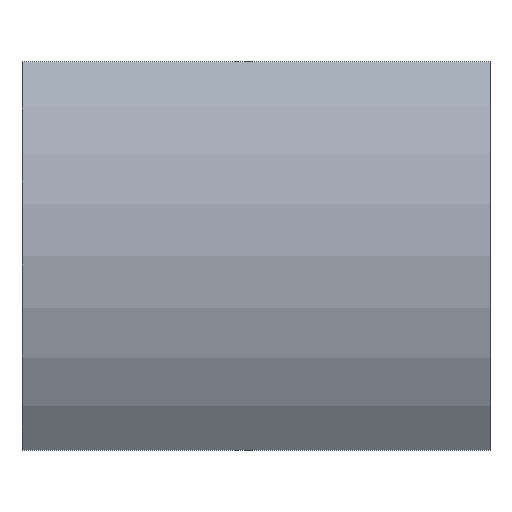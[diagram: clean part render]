
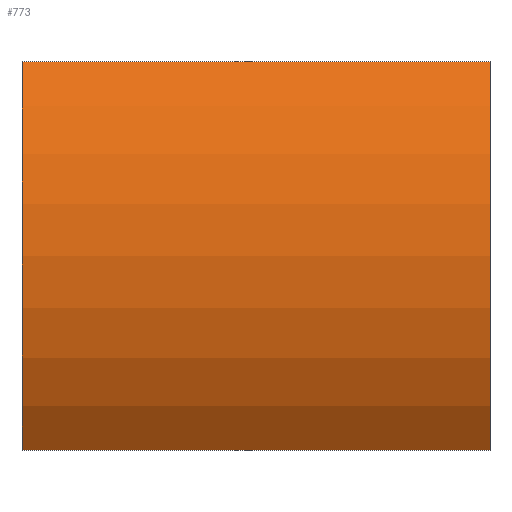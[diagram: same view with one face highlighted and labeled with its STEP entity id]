
A CAD part, top view. The second image highlights one B-rep face of the part: STEP entity #773.
In plain terms, the highlighted cylindrical face has radius 18.8 mm (diameter 37.6 mm), a partial arc.
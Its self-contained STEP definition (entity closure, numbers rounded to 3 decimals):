
#24 = VERTEX_POINT('',#25);
#25 = CARTESIAN_POINT('',(160.7,-11.115,15.162));
#32 = PLANE('',#33);
#33 = AXIS2_PLACEMENT_3D('',#34,#35,#36);
#34 = CARTESIAN_POINT('',(160.7,-11.115,14.2));
#35 = DIRECTION('',(1.,0.,-0.));
#36 = DIRECTION('',(0.,0.,1.));
#44 = PLANE('',#45);
#45 = AXIS2_PLACEMENT_3D('',#46,#47,#48);
#46 = CARTESIAN_POINT('',(160.7,-11.115,14.2));
#47 = DIRECTION('',(-0.,1.,0.));
#48 = DIRECTION('',(0.,0.,1.));
#85 = VERTEX_POINT('',#86);
#86 = CARTESIAN_POINT('',(160.7,11.115,15.162));
#100 = PLANE('',#101);
#101 = AXIS2_PLACEMENT_3D('',#102,#103,#104);
#102 = CARTESIAN_POINT('',(160.7,11.115,14.2));
#103 = DIRECTION('',(-0.,1.,0.));
#104 = DIRECTION('',(0.,0.,1.));
#112 = EDGE_CURVE('',#85,#24,#113,.T.);
#113 = SURFACE_CURVE('',#114,(#119,#126),.PCURVE_S1.);
#114 = CIRCLE('',#115,18.8);
#115 = AXIS2_PLACEMENT_3D('',#116,#117,#118);
#116 = CARTESIAN_POINT('',(160.7,0.,0.));
#117 = DIRECTION('',(1.,0.,0.));
#118 = DIRECTION('',(-0.,1.,0.));
#119 = PCURVE('',#32,#120);
#120 = DEFINITIONAL_REPRESENTATION('',(#121),#125);
#121 = CIRCLE('',#122,18.8);
#122 = AXIS2_PLACEMENT_2D('',#123,#124);
#123 = CARTESIAN_POINT('',(-14.2,-11.115));
#124 = DIRECTION('',(0.,-1.));
#125 = ( GEOMETRIC_REPRESENTATION_CONTEXT(2) 
PARAMETRIC_REPRESENTATION_CONTEXT() REPRESENTATION_CONTEXT('2D SPACE',''
  ) );
#126 = PCURVE('',#127,#132);
#127 = CYLINDRICAL_SURFACE('',#128,18.8);
#128 = AXIS2_PLACEMENT_3D('',#129,#130,#131);
#129 = CARTESIAN_POINT('',(42.,0.,0.));
#130 = DIRECTION('',(1.,0.,0.));
#131 = DIRECTION('',(-0.,1.,0.));
#132 = DEFINITIONAL_REPRESENTATION('',(#133),#137);
#133 = LINE('',#134,#135);
#134 = CARTESIAN_POINT('',(0.,118.7));
#135 = VECTOR('',#136,1.);
#136 = DIRECTION('',(1.,0.));
#137 = ( GEOMETRIC_REPRESENTATION_CONTEXT(2) 
PARAMETRIC_REPRESENTATION_CONTEXT() REPRESENTATION_CONTEXT('2D SPACE',''
  ) );
#205 = PLANE('',#206);
#206 = AXIS2_PLACEMENT_3D('',#207,#208,#209);
#207 = CARTESIAN_POINT('',(187.5,-11.115,14.2));
#208 = DIRECTION('',(1.,0.,-0.));
#209 = DIRECTION('',(0.,0.,1.));
#678 = VERTEX_POINT('',#679);
#679 = CARTESIAN_POINT('',(187.5,11.115,15.162));
#700 = EDGE_CURVE('',#678,#701,#703,.T.);
#701 = VERTEX_POINT('',#702);
#702 = CARTESIAN_POINT('',(187.5,-11.115,15.162));
#703 = SURFACE_CURVE('',#704,(#709,#716),.PCURVE_S1.);
#704 = CIRCLE('',#705,18.8);
#705 = AXIS2_PLACEMENT_3D('',#706,#707,#708);
#706 = CARTESIAN_POINT('',(187.5,0.,0.));
#707 = DIRECTION('',(1.,0.,0.));
#708 = DIRECTION('',(-0.,1.,0.));
#709 = PCURVE('',#205,#710);
#710 = DEFINITIONAL_REPRESENTATION('',(#711),#715);
#711 = CIRCLE('',#712,18.8);
#712 = AXIS2_PLACEMENT_2D('',#713,#714);
#713 = CARTESIAN_POINT('',(-14.2,-11.115));
#714 = DIRECTION('',(0.,-1.));
#715 = ( GEOMETRIC_REPRESENTATION_CONTEXT(2) 
PARAMETRIC_REPRESENTATION_CONTEXT() REPRESENTATION_CONTEXT('2D SPACE',''
  ) );
#716 = PCURVE('',#127,#717);
#717 = DEFINITIONAL_REPRESENTATION('',(#718),#722);
#718 = LINE('',#719,#720);
#719 = CARTESIAN_POINT('',(0.,145.5));
#720 = VECTOR('',#721,1.);
#721 = DIRECTION('',(1.,0.));
#722 = ( GEOMETRIC_REPRESENTATION_CONTEXT(2) 
PARAMETRIC_REPRESENTATION_CONTEXT() REPRESENTATION_CONTEXT('2D SPACE',''
  ) );
#755 = EDGE_CURVE('',#85,#678,#756,.T.);
#756 = SURFACE_CURVE('',#757,(#761,#767),.PCURVE_S1.);
#757 = LINE('',#758,#759);
#758 = CARTESIAN_POINT('',(42.,11.115,15.162));
#759 = VECTOR('',#760,1.);
#760 = DIRECTION('',(1.,0.,0.));
#761 = PCURVE('',#100,#762);
#762 = DEFINITIONAL_REPRESENTATION('',(#763),#766);
#763 = B_SPLINE_CURVE_WITH_KNOTS('',1,(#764,#765),.UNSPECIFIED.,.F.,.F.,
  (2,2),(116.02,148.18),.PIECEWISE_BEZIER_KNOTS.);
#764 = CARTESIAN_POINT('',(0.962,-2.68));
#765 = CARTESIAN_POINT('',(0.962,29.48));
#766 = ( GEOMETRIC_REPRESENTATION_CONTEXT(2) 
PARAMETRIC_REPRESENTATION_CONTEXT() REPRESENTATION_CONTEXT('2D SPACE',''
  ) );
#767 = PCURVE('',#127,#768);
#768 = DEFINITIONAL_REPRESENTATION('',(#769),#772);
#769 = B_SPLINE_CURVE_WITH_KNOTS('',1,(#770,#771),.UNSPECIFIED.,.F.,.F.,
  (2,2),(116.02,148.18),.PIECEWISE_BEZIER_KNOTS.);
#770 = CARTESIAN_POINT('',(0.938,116.02));
#771 = CARTESIAN_POINT('',(0.938,148.18));
#772 = ( GEOMETRIC_REPRESENTATION_CONTEXT(2) 
PARAMETRIC_REPRESENTATION_CONTEXT() REPRESENTATION_CONTEXT('2D SPACE',''
  ) );
#773 = ADVANCED_FACE('',(#774),#127,.T.);
#774 = FACE_BOUND('',#775,.T.);
#775 = EDGE_LOOP('',(#776,#777,#778,#797));
#776 = ORIENTED_EDGE('',*,*,#755,.F.);
#777 = ORIENTED_EDGE('',*,*,#112,.T.);
#778 = ORIENTED_EDGE('',*,*,#779,.T.);
#779 = EDGE_CURVE('',#24,#701,#780,.T.);
#780 = SURFACE_CURVE('',#781,(#785,#791),.PCURVE_S1.);
#781 = LINE('',#782,#783);
#782 = CARTESIAN_POINT('',(42.,-11.115,15.162));
#783 = VECTOR('',#784,1.);
#784 = DIRECTION('',(1.,0.,0.));
#785 = PCURVE('',#127,#786);
#786 = DEFINITIONAL_REPRESENTATION('',(#787),#790);
#787 = B_SPLINE_CURVE_WITH_KNOTS('',1,(#788,#789),.UNSPECIFIED.,.F.,.F.,
  (2,2),(116.02,148.18),.PIECEWISE_BEZIER_KNOTS.);
#788 = CARTESIAN_POINT('',(2.203,116.02));
#789 = CARTESIAN_POINT('',(2.203,148.18));
#790 = ( GEOMETRIC_REPRESENTATION_CONTEXT(2) 
PARAMETRIC_REPRESENTATION_CONTEXT() REPRESENTATION_CONTEXT('2D SPACE',''
  ) );
#791 = PCURVE('',#44,#792);
#792 = DEFINITIONAL_REPRESENTATION('',(#793),#796);
#793 = B_SPLINE_CURVE_WITH_KNOTS('',1,(#794,#795),.UNSPECIFIED.,.F.,.F.,
  (2,2),(116.02,148.18),.PIECEWISE_BEZIER_KNOTS.);
#794 = CARTESIAN_POINT('',(0.962,-2.68));
#795 = CARTESIAN_POINT('',(0.962,29.48));
#796 = ( GEOMETRIC_REPRESENTATION_CONTEXT(2) 
PARAMETRIC_REPRESENTATION_CONTEXT() REPRESENTATION_CONTEXT('2D SPACE',''
  ) );
#797 = ORIENTED_EDGE('',*,*,#700,.F.);
